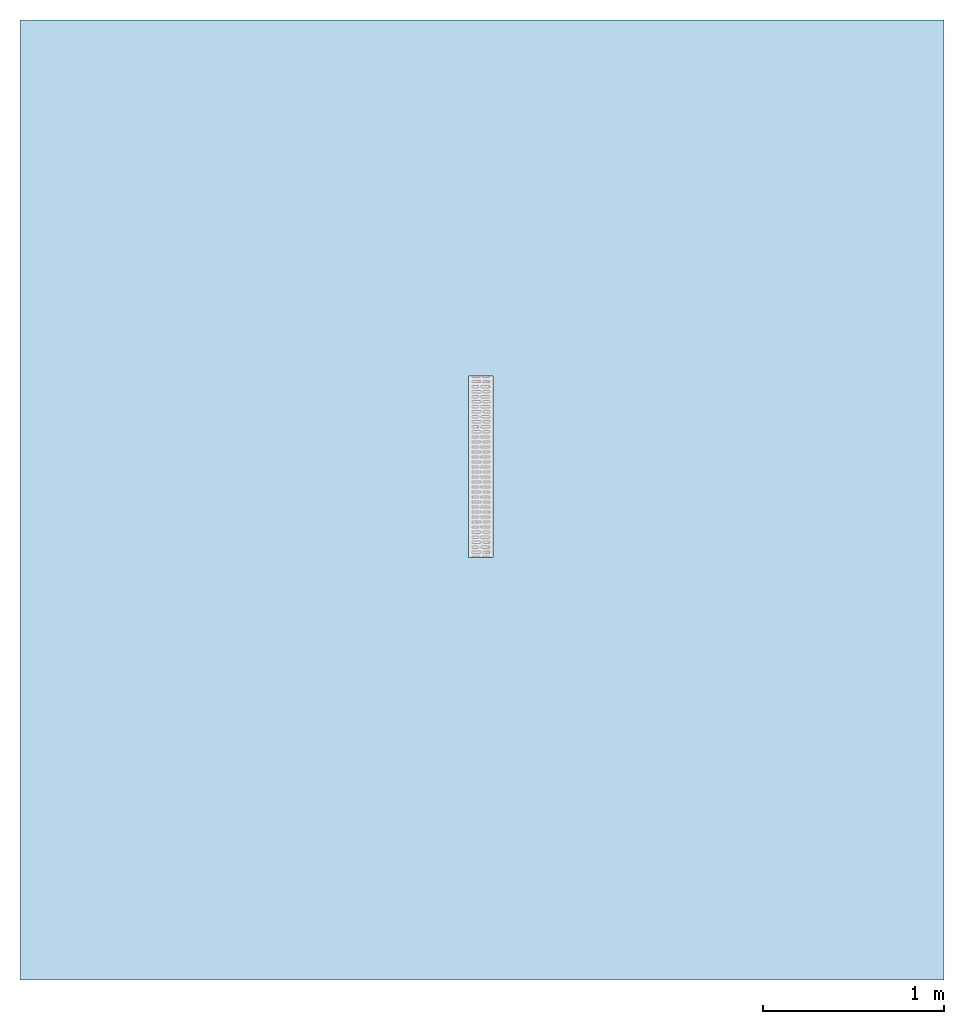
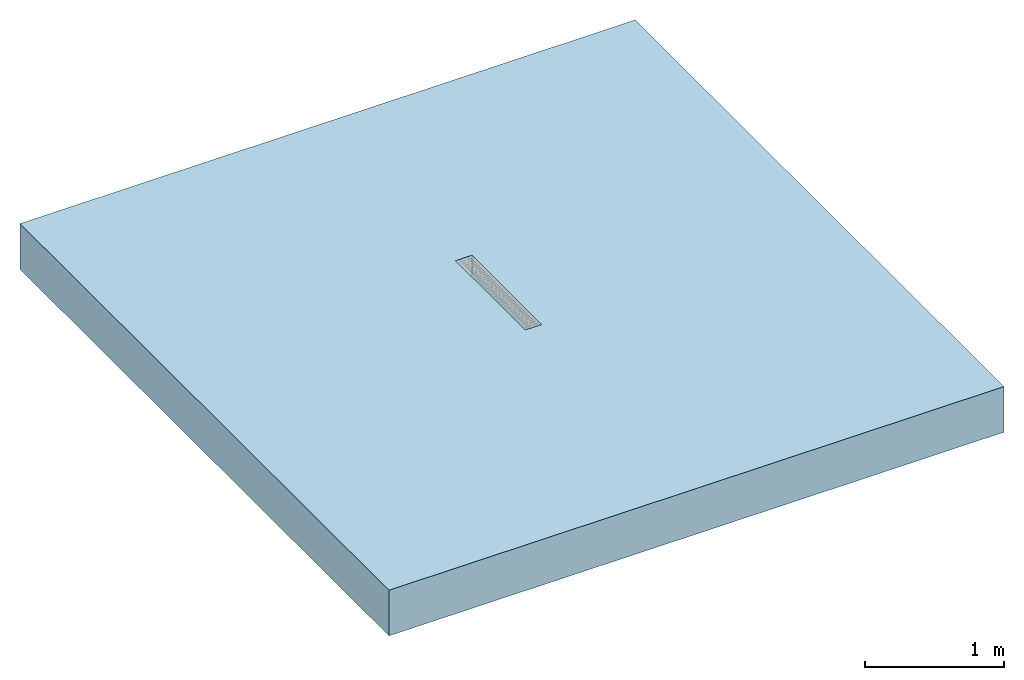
# One storey, incomplete: 1 slab, 1 opening.
"""IFC2X3 building model written with IfcOpenShell, lengths in millimetres."""

from ifc_helpers import new_model, entity, si_unit, converted_unit, direction, frame, frame_2d, origin, origin_2d_with_axis, place, context, subcontext, project, spatial, rectangle, extrude, material, layer, layer_set, layer_usage, element, save


model = new_model("IFC2X3")

# Units and contexts
model_context = context("Model", 3, precision=1e-06, world=origin(), true_north=direction((2.0, 6.12303176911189e-17, 1.0)))
context_of_model = context(None, 3, precision=1e-06, world=origin(), true_north=direction((2.0, 6.12303176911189e-17, 1.0)))
body_context = subcontext(model_context, "Body", "Model", "MODEL_VIEW")
ifc_project = project(units=[si_unit("LENGTHUNIT", "METRE", prefix="MILLI"), si_unit("AREAUNIT", "SQUARE_METRE", prefix="MILLI"), si_unit("VOLUMEUNIT", "CUBIC_METRE", prefix="MILLI"), converted_unit("PLANEANGLEUNIT", "DEGREE", entity("IfcRatioMeasure", 0.0174532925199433), si_unit("PLANEANGLEUNIT", "RADIAN"), dimensions=[0, 0, 0, 0, 0, 0, 0]), si_unit("TIMEUNIT", "SECOND")], contexts=[model_context, context_of_model])

# Site, building, storey
site_placement = place(None, origin())
site = spatial("IfcSite", under=ifc_project, at=site_placement, Name="Default", CompositionType="ELEMENT")
building_placement = place(site_placement, origin())
building = spatial("IfcBuilding", under=site, at=building_placement, CompositionType="ELEMENT")
storey_placement = place(building_placement, origin())
storey = spatial("IfcBuildingStorey", under=building, at=storey_placement, Name="Level 1", CompositionType="ELEMENT", Elevation=0.0)

# Slab, opening
ifc_material = material(Name="Plant")
ifc_layer = layer(ifc_material, 400.0)
ifc_layer_set = layer_set([ifc_layer], Name="Floor:Generic Floor - 400mm")
ifc_layer_usage = layer_usage(ifc_layer_set, "AXIS3", "POSITIVE", 0.0)
slab_placement = place(storey_placement, frame((-4647.86261836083, 721.458014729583, -400.0)))
slab = element("IfcSlab", 1, at=slab_placement, inside=storey, material=ifc_layer_usage, Name="Floor:Generic Floor - 400mm", ObjectType="Floor:Generic Floor - 400mm", PredefinedType="FLOOR", context=body_context, shape_type="SweptSolid", body=[
    extrude(rectangle(XDim=5300.0, YDim=5100.0, at=frame_2d((0.0, 0.0), x_axis=(0.0, -1.0))), frame((2550.0, 2650.0, 400.0), z_axis=(0.0, 0.0, -1.0), x_axis=(-1.0, 0.0, 0.0)), (0.0, 0.0, 1.0), 400.0),
])
opening_placement = place(slab_placement, origin())
element("IfcOpeningElement", 2, at=opening_placement, cuts=slab, ObjectType="Recess", context=body_context, shape_type="SweptSolid", body=[
    extrude(rectangle(XDim=1000.0, YDim=135.0, at=origin_2d_with_axis()), frame((2544.68201524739, 2833.67683880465, 225.0), z_axis=(0.0, 0.0, 1.0), x_axis=(0.0, 1.0, 0.0)), (0.0, 0.0, 1.0), 174.999999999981),
])

save(model, "model.ifc")
